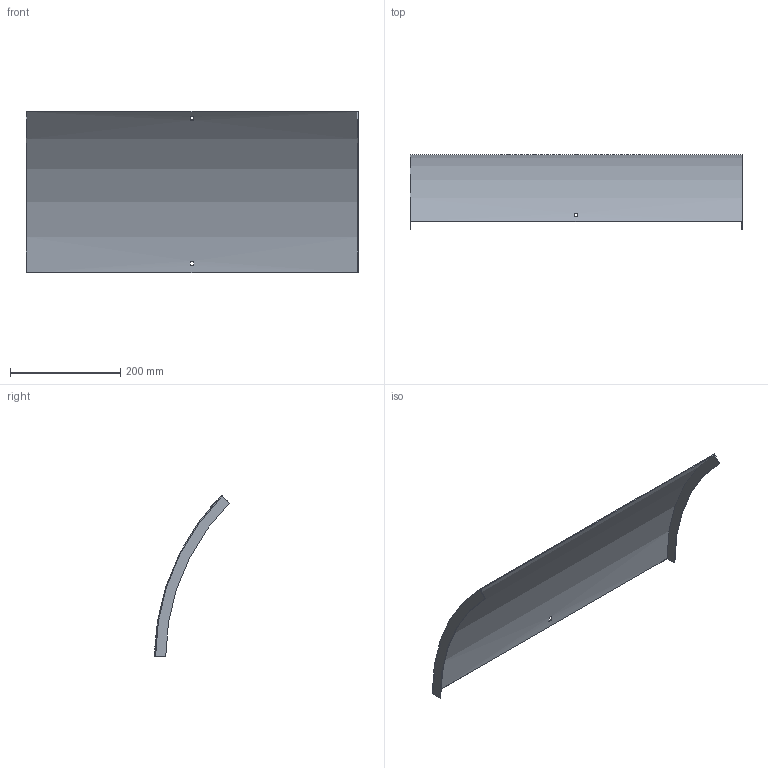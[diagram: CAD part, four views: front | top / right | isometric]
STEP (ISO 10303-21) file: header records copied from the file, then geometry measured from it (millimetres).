
FILE_DESCRIPTION (( 'STEP AP214' ), '1' );
FILE_NAME ('B2_34N3J600.step', '2025-02-21T10:37:11', ( '' ), ( '' ), 'SwSTEP 2.0', 'SolidWorks 2023', '' );
FILE_SCHEMA (( 'AUTOMOTIVE_DESIGN' ));
Length unit declared in the file: millimetre
Products named in the file (1): B2_34N3J600
Bounding box: 603 x 135.4 x 292.74 mm (x, y, z)
Volume: 310971.6 mm3; surface area: 417572 mm2
Topology: 1 solids, 1 shells, 18 faces, 48 edges, 32 vertices
Faces by surface type: plane 14, cylinder 4
Entity records: 599 total; most frequent: DIRECTION 102, CARTESIAN_POINT 99, ORIENTED_EDGE 96, EDGE_CURVE 48, AXIS2_PLACEMENT_3D 35, VERTEX_POINT 32, LINE 32, VECTOR 32
